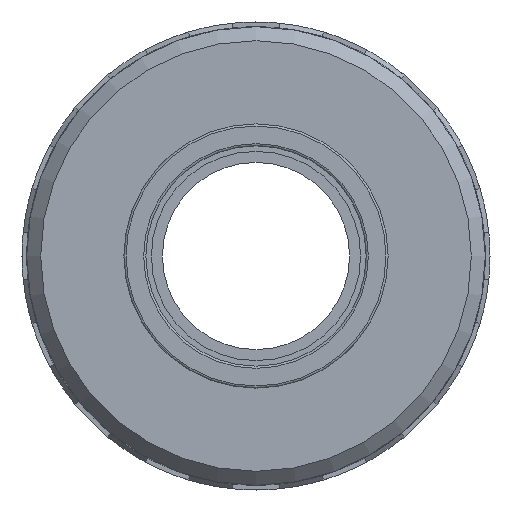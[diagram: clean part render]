
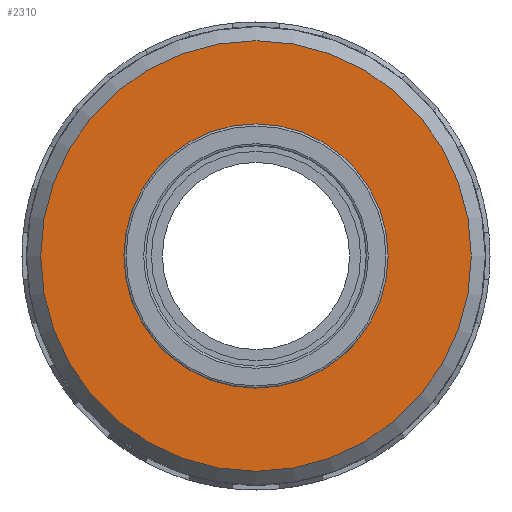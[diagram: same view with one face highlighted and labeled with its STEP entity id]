
A CAD part, left-side view. The second image highlights one B-rep face of the part: STEP entity #2310.
In plain terms, the highlighted planar face has unit normal (-1, 0, 0).
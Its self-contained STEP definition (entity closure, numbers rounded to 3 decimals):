
#62=FACE_BOUND('',#469,.T.);
#201=CIRCLE('',#2547,9.6);
#204=CIRCLE('',#2554,15.64);
#328=FACE_OUTER_BOUND('',#468,.T.);
#468=EDGE_LOOP('',(#2104));
#469=EDGE_LOOP('',(#2105));
#1115=VERTEX_POINT('',#3927);
#1118=VERTEX_POINT('',#3939);
#1444=EDGE_CURVE('',#1115,#1115,#201,.T.);
#1449=EDGE_CURVE('',#1118,#1118,#204,.T.);
#2104=ORIENTED_EDGE('',*,*,#1449,.F.);
#2105=ORIENTED_EDGE('',*,*,#1444,.F.);
#2187=PLANE('',#2556);
#2310=ADVANCED_FACE('',(#328,#62),#2187,.T.);
#2547=AXIS2_PLACEMENT_3D('',#3928,#3232,#3233);
#2554=AXIS2_PLACEMENT_3D('',#3940,#3248,#3249);
#2556=AXIS2_PLACEMENT_3D('',#3942,#3252,#3253);
#3232=DIRECTION('center_axis',(-1.,0.,0.));
#3233=DIRECTION('ref_axis',(0.,0.,1.));
#3248=DIRECTION('center_axis',(1.,0.,0.));
#3249=DIRECTION('ref_axis',(0.,1.,0.));
#3252=DIRECTION('center_axis',(-1.,0.,0.));
#3253=DIRECTION('ref_axis',(0.,0.,1.));
#3927=CARTESIAN_POINT('',(-9.,-9.6,0.));
#3928=CARTESIAN_POINT('Origin',(-9.,0.,0.));
#3939=CARTESIAN_POINT('',(-9.,-15.64,0.));
#3940=CARTESIAN_POINT('Origin',(-9.,0.,0.));
#3942=CARTESIAN_POINT('Origin',(-9.,-9.6,0.));
